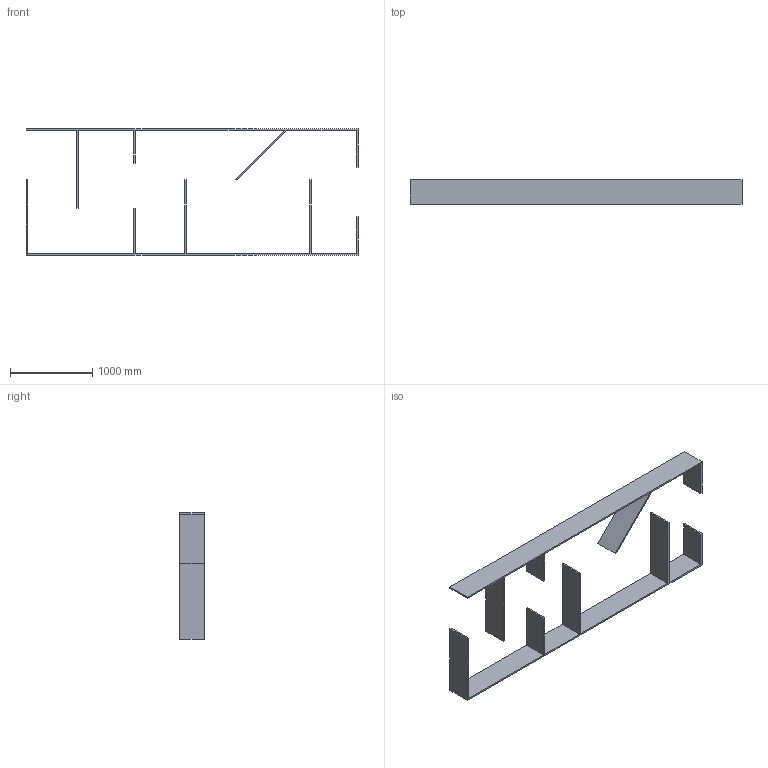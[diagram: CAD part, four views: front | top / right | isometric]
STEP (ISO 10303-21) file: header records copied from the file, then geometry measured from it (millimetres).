
FILE_DESCRIPTION (( 'STEP AP214' ), '1' );
FILE_NAME ('Navigation Court Lyon.STEP', '2024-05-07T17:10:53', ( '' ), ( '' ), 'SwSTEP 2.0', 'SolidWorks 2022', '' );
FILE_SCHEMA (( 'AUTOMOTIVE_DESIGN' ));
Length unit declared in the file: millimetre
Products named in the file (1): Navigation Court Lyon
Bounding box: 4038 x 300 x 1538 mm (x, y, z)
Volume: 82219810.4 mm3; surface area: 9225649 mm2
Topology: 2 solids, 2 shells, 42 faces, 114 edges, 76 vertices
Faces by surface type: plane 42
Entity records: 1341 total; most frequent: CARTESIAN_POINT 233, ORIENTED_EDGE 228, DIRECTION 200, LINE 114, VECTOR 114, EDGE_CURVE 114, VERTEX_POINT 76, AXIS2_PLACEMENT_3D 43
